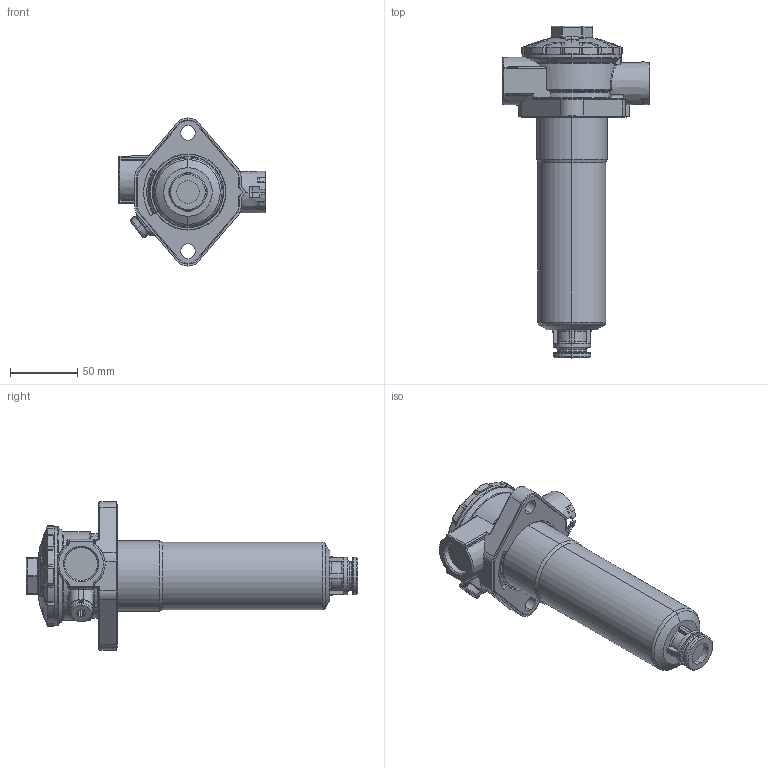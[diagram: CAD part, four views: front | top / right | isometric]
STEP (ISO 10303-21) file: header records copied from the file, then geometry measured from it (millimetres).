
FILE_DESCRIPTION((''),'2;1');
FILE_NAME('1000517992','2024-08-08T16:43:38',('a.heinl'),(''),'CREO PARAMETRIC BY PTC INC, 2023254','CREO PARAMETRIC BY PTC INC, 2023254','');
FILE_SCHEMA(('AUTOMOTIVE_DESIGN { 1 0 10303 214 1 1 1 1 }'));
Length unit declared in the file: millimetre
Products named in the file (1): 1000517992
Bounding box: 109 x 246.65 x 110 mm (x, y, z)
Volume: 580403.4 mm3; surface area: 70741.4 mm2
Topology: 1 solids, 2 shells, 1215 faces, 3136 edges, 1943 vertices
Faces by surface type: plane 410, bspline 312, cylinder 238, torus 117, cone 100, sphere 23, extrusion 15
Entity records: 59608 total; most frequent: CARTESIAN_POINT 24054, ORIENTED_EDGE 6216, DIRECTION 4364, PRESENTATION_STYLE_ASSIGNMENT 3109, STYLED_ITEM 3109, CURVE_STYLE 3108, EDGE_CURVE 3108, VERTEX_POINT 1943
